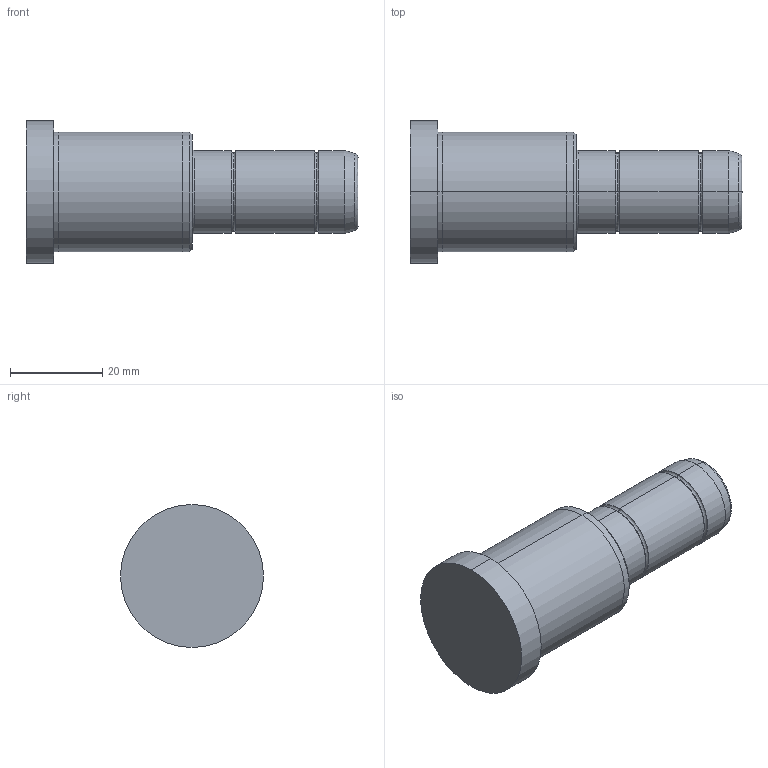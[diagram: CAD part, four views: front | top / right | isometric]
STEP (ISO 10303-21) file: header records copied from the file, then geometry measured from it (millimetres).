
FILE_DESCRIPTION( ( 'STEP AP203' ), '1' );
FILE_NAME( 'C:/Projects/D02 - 18x36x36.step', '2003-01-04T13:23:48', ( ' ' ), ( ' ' ), 'XStep 1.0', ' ', ' ' );
FILE_SCHEMA( ( 'CONFIG_CONTROL_DESIGN' ) );
Length unit declared in the file: metre
Products named in the file (1): 1
Bounding box: 72 x 31 x 31 mm (x, y, z)
Volume: 29517.2 mm3; surface area: 6548.2 mm2
Topology: 1 solids, 1 shells, 36 faces, 70 edges, 40 vertices
Faces by surface type: bspline 18, revolution 18
Entity records: 1127 total; most frequent: CARTESIAN_POINT 417, ORIENTED_EDGE 140, DIRECTION 118, EDGE_CURVE 70, AXIS2_PLACEMENT_3D 41, EDGE_LOOP 40, VERTEX_POINT 40, CIRCLE 40
